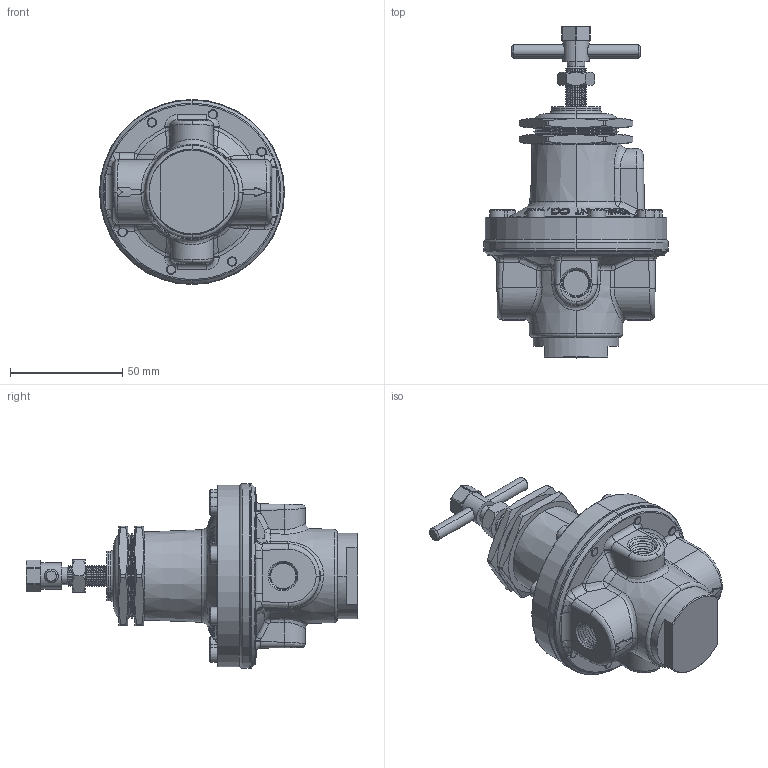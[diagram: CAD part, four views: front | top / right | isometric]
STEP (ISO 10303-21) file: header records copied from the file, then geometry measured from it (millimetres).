
FILE_DESCRIPTION (( 'STEP AP203' ), '1' );
FILE_NAME ('4GDR-250B-P.STEP', '2013-03-14T14:45:12', ( '' ), ( '' ), 'SwSTEP 2.0', 'SolidWorks 2011', '' );
FILE_SCHEMA (( 'CONFIG_CONTROL_DESIGN' ));
Products named in the file (2): 4GDR-250B-P; Part12^4GDR-250B-P_CM
Assembly tree (1 placements, depth 2):
  4GDR-250B-P
    Part12^4GDR-250B-P_CM
Bounding box: 82.3 x 147.64 x 82.3 mm (x, y, z)
Volume: 251224.3 mm3; surface area: 38267.9 mm2
Topology: 1 solids, 6 shells, 1286 faces, 2955 edges, 1719 vertices
Faces by surface type: cone 459, plane 356, bspline 222, cylinder 203, torus 33, sphere 13
Entity records: 45632 total; most frequent: CARTESIAN_POINT 18743, ORIENTED_EDGE 5868, DIRECTION 5048, EDGE_CURVE 2934, AXIS2_PLACEMENT_3D 1984, VERTEX_POINT 1719, EDGE_LOOP 1355, FACE_OUTER_BOUND 1286
